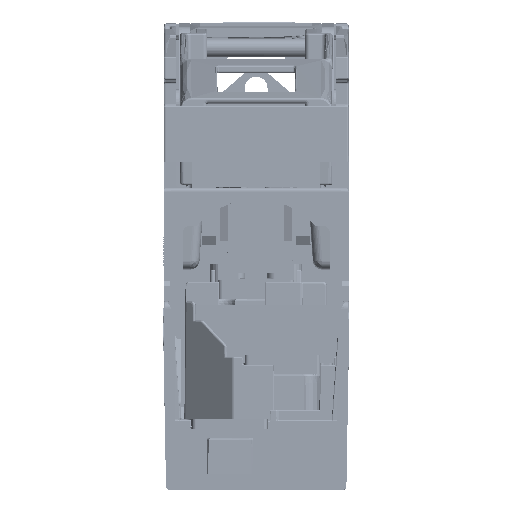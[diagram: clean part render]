
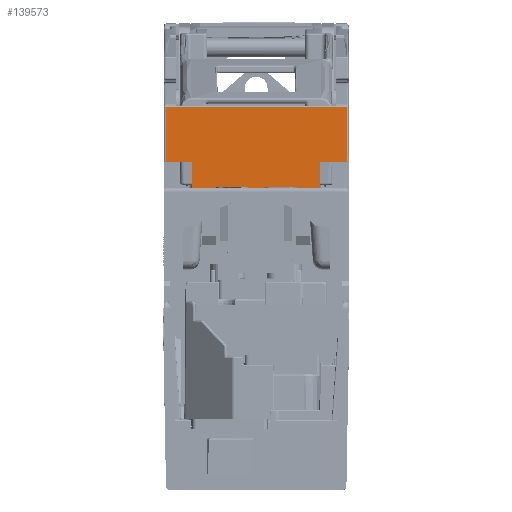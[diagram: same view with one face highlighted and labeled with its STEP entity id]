
A CAD part, top view. The second image highlights one B-rep face of the part: STEP entity #139573.
In plain terms, the highlighted planar face has unit normal (0, 0.009, 1).
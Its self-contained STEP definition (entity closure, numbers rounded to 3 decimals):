
#11222 = DIRECTION ( 'NONE',  ( 0., -1., 0.009 ) ) ;
#11224 = VECTOR ( 'NONE', #11222, 1000. ) ;
#11225 = CARTESIAN_POINT ( 'NONE',  ( -24., 68.5, 296. ) ) ;
#11227 = LINE ( 'NONE', #11225, #11224 ) ;
#11345 = CARTESIAN_POINT ( 'NONE',  ( -24., 77.061, 295.925 ) ) ;
#18049 = DIRECTION ( 'NONE',  ( 1., -0.009, 0. ) ) ;
#18051 = VECTOR ( 'NONE', #18049, 1000. ) ;
#18053 = CARTESIAN_POINT ( 'NONE',  ( -24., 77.061, 295.925 ) ) ;
#18054 = LINE ( 'NONE', #18053, #18051 ) ;
#39087 = FACE_OUTER_BOUND ( 'NONE', #139576, .T. ) ;
#39220 = CARTESIAN_POINT ( 'NONE',  ( 24., 77.061, 295.925 ) ) ;
#39222 = DIRECTION ( 'NONE',  ( -1., -0.009, 0. ) ) ;
#39224 = VECTOR ( 'NONE', #39222, 1000. ) ;
#39225 = CARTESIAN_POINT ( 'NONE',  ( 24., 77.061, 295.925 ) ) ;
#39226 = LINE ( 'NONE', #39225, #39224 ) ;
#39244 = DIRECTION ( 'NONE',  ( 0., -1., 0.009 ) ) ;
#39246 = DIRECTION ( 'NONE',  ( 0., 0.009, 1. ) ) ;
#39248 = CARTESIAN_POINT ( 'NONE',  ( 0., 68.5, 296. ) ) ;
#39250 = AXIS2_PLACEMENT_3D ( 'NONE', #39248, #39246, #39244 ) ;
#39254 = PLANE ( 'NONE',  #39250 ) ;
#39310 = DIRECTION ( 'NONE',  ( 0., -1., 0.009 ) ) ;
#39312 = VECTOR ( 'NONE', #39310, 1000. ) ;
#39315 = CARTESIAN_POINT ( 'NONE',  ( 24., 68.5, 296. ) ) ;
#39317 = LINE ( 'NONE', #39315, #39312 ) ;
#59061 = CARTESIAN_POINT ( 'NONE',  ( -24., 91.504, 295.799 ) ) ;
#85022 = CARTESIAN_POINT ( 'NONE',  ( -15., 70., 295.987 ) ) ;
#85023 = CARTESIAN_POINT ( 'NONE',  ( -15.667, 70., 295.987 ) ) ;
#85025 = CARTESIAN_POINT ( 'NONE',  ( -16.333, 70., 295.987 ) ) ;
#85027 = CARTESIAN_POINT ( 'NONE',  ( -17., 70., 295.993 ) ) ;
#85034 = B_SPLINE_CURVE_WITH_KNOTS ( 'NONE', 3,
 ( #85027, #85025, #85023, #85022 ),
 .UNSPECIFIED., .F., .F.,
 ( 4, 4 ),
 ( 0., 1. ),
 .UNSPECIFIED. ) ;
#85050 = CARTESIAN_POINT ( 'NONE',  ( -15., 70., 295.987 ) ) ;
#85081 = CARTESIAN_POINT ( 'NONE',  ( 24., 91.504, 295.799 ) ) ;
#85099 = DIRECTION ( 'NONE',  ( 0.707, -0.707, 0.006 ) ) ;
#85100 = VECTOR ( 'NONE', #85099, 1000. ) ;
#85101 = CARTESIAN_POINT ( 'NONE',  ( -15., 70., 295.987 ) ) ;
#85102 = LINE ( 'NONE', #85101, #85100 ) ;
#85151 = DIRECTION ( 'NONE',  ( -1., 0., 0. ) ) ;
#85153 = VECTOR ( 'NONE', #85151, 1000. ) ;
#85155 = CARTESIAN_POINT ( 'NONE',  ( 0., 91.504, 295.799 ) ) ;
#85165 = LINE ( 'NONE', #85155, #85153 ) ;
#85185 = CARTESIAN_POINT ( 'NONE',  ( 15., 70., 295.987 ) ) ;
#85267 = DIRECTION ( 'NONE',  ( 0.707, 0.707, -0.006 ) ) ;
#85268 = VECTOR ( 'NONE', #85267, 1000. ) ;
#85269 = CARTESIAN_POINT ( 'NONE',  ( 13.5, 68.5, 296. ) ) ;
#85270 = LINE ( 'NONE', #85269, #85268 ) ;
#85333 = CARTESIAN_POINT ( 'NONE',  ( 17., 70., 295.993 ) ) ;
#85334 = CARTESIAN_POINT ( 'NONE',  ( 16.333, 70., 295.987 ) ) ;
#85335 = CARTESIAN_POINT ( 'NONE',  ( 15.667, 70., 295.987 ) ) ;
#85336 = CARTESIAN_POINT ( 'NONE',  ( 15., 70., 295.987 ) ) ;
#85342 = B_SPLINE_CURVE_WITH_KNOTS ( 'NONE', 3,
 ( #85336, #85335, #85334, #85333 ),
 .UNSPECIFIED., .F., .F.,
 ( 4, 4 ),
 ( 0., 1. ),
 .UNSPECIFIED. ) ;
#87413 = DIRECTION ( 'NONE',  ( 1., 0., 0. ) ) ;
#87415 = VECTOR ( 'NONE', #87413, 1000. ) ;
#87417 = CARTESIAN_POINT ( 'NONE',  ( 0., 68.5, 296. ) ) ;
#87418 = LINE ( 'NONE', #87417, #87415 ) ;
#119947 = VERTEX_POINT ( 'NONE', #344110 ) ;
#120011 = VERTEX_POINT ( 'NONE', #344517 ) ;
#128041 = VERTEX_POINT ( 'NONE', #11345 ) ;
#128061 = EDGE_CURVE ( 'NONE', #216047, #128041, #11227, .T. ) ;
#130251 = EDGE_CURVE ( 'NONE', #128041, #311566, #18054, .T. ) ;
#139529 = ORIENTED_EDGE ( 'NONE', *, *, #226716, .T. ) ;
#139573 = ADVANCED_FACE ( 'NONE', ( #39087 ), #39254, .T. ) ;
#139576 = EDGE_LOOP ( 'NONE', ( #139581, #139594, #139700, #139709, #139714, #139721, #139725, #139728, #139733, #139739, #139529, #139643 ) ) ;
#139581 = ORIENTED_EDGE ( 'NONE', *, *, #313276, .T. ) ;
#139594 = ORIENTED_EDGE ( 'NONE', *, *, #139599, .F. ) ;
#139599 = EDGE_CURVE ( 'NONE', #139600, #313063, #39226, .T. ) ;
#139600 = VERTEX_POINT ( 'NONE', #39220 ) ;
#139643 = ORIENTED_EDGE ( 'NONE', *, *, #226796, .T. ) ;
#139700 = ORIENTED_EDGE ( 'NONE', *, *, #139702, .F. ) ;
#139702 = EDGE_CURVE ( 'NONE', #226652, #139600, #39317, .T. ) ;
#139709 = ORIENTED_EDGE ( 'NONE', *, *, #226669, .T. ) ;
#139714 = ORIENTED_EDGE ( 'NONE', *, *, #128061, .T. ) ;
#139721 = ORIENTED_EDGE ( 'NONE', *, *, #130251, .T. ) ;
#139725 = ORIENTED_EDGE ( 'NONE', *, *, #311805, .T. ) ;
#139728 = ORIENTED_EDGE ( 'NONE', *, *, #226629, .T. ) ;
#139733 = ORIENTED_EDGE ( 'NONE', *, *, #226641, .T. ) ;
#139739 = ORIENTED_EDGE ( 'NONE', *, *, #227731, .T. ) ;
#216047 = VERTEX_POINT ( 'NONE', #59061 ) ;
#226624 = VERTEX_POINT ( 'NONE', #85050 ) ;
#226629 = EDGE_CURVE ( 'NONE', #311788, #226624, #85034, .T. ) ;
#226641 = EDGE_CURVE ( 'NONE', #226624, #120011, #85102, .T. ) ;
#226652 = VERTEX_POINT ( 'NONE', #85081 ) ;
#226669 = EDGE_CURVE ( 'NONE', #226652, #216047, #85165, .T. ) ;
#226710 = VERTEX_POINT ( 'NONE', #85185 ) ;
#226716 = EDGE_CURVE ( 'NONE', #119947, #226710, #85270, .T. ) ;
#226796 = EDGE_CURVE ( 'NONE', #226710, #313290, #85342, .T. ) ;
#227731 = EDGE_CURVE ( 'NONE', #120011, #119947, #87418, .T. ) ;
#311566 = VERTEX_POINT ( 'NONE', #313773 ) ;
#311788 = VERTEX_POINT ( 'NONE', #314310 ) ;
#311805 = EDGE_CURVE ( 'NONE', #311566, #311788, #314490, .T. ) ;
#313063 = VERTEX_POINT ( 'NONE', #318663 ) ;
#313276 = EDGE_CURVE ( 'NONE', #313290, #313063, #318992, .T. ) ;
#313290 = VERTEX_POINT ( 'NONE', #319194 ) ;
#313773 = CARTESIAN_POINT ( 'NONE',  ( -17., 77., 295.926 ) ) ;
#314310 = CARTESIAN_POINT ( 'NONE',  ( -17., 70., 295.993 ) ) ;
#314465 = CARTESIAN_POINT ( 'NONE',  ( -17., 70., 295.993 ) ) ;
#314469 = CARTESIAN_POINT ( 'NONE',  ( -17., 72.333, 295.967 ) ) ;
#314472 = CARTESIAN_POINT ( 'NONE',  ( -17., 74.667, 295.946 ) ) ;
#314477 = CARTESIAN_POINT ( 'NONE',  ( -17., 77., 295.926 ) ) ;
#314490 = B_SPLINE_CURVE_WITH_KNOTS ( 'NONE', 3,
 ( #314477, #314472, #314469, #314465 ),
 .UNSPECIFIED., .F., .F.,
 ( 4, 4 ),
 ( 0., 1. ),
 .UNSPECIFIED. ) ;
#318663 = CARTESIAN_POINT ( 'NONE',  ( 17., 77., 295.926 ) ) ;
#318976 = CARTESIAN_POINT ( 'NONE',  ( 17., 72.333, 295.967 ) ) ;
#318979 = CARTESIAN_POINT ( 'NONE',  ( 17., 70., 295.993 ) ) ;
#318992 = B_SPLINE_CURVE_WITH_KNOTS ( 'NONE', 3,
 ( #318979, #318976, #319219, #319217 ),
 .UNSPECIFIED., .F., .F.,
 ( 4, 4 ),
 ( 0., 1. ),
 .UNSPECIFIED. ) ;
#319194 = CARTESIAN_POINT ( 'NONE',  ( 17., 70., 295.993 ) ) ;
#319217 = CARTESIAN_POINT ( 'NONE',  ( 17., 77., 295.926 ) ) ;
#319219 = CARTESIAN_POINT ( 'NONE',  ( 17., 74.667, 295.946 ) ) ;
#344110 = CARTESIAN_POINT ( 'NONE',  ( 13.5, 68.5, 296. ) ) ;
#344517 = CARTESIAN_POINT ( 'NONE',  ( -13.5, 68.5, 296. ) ) ;
